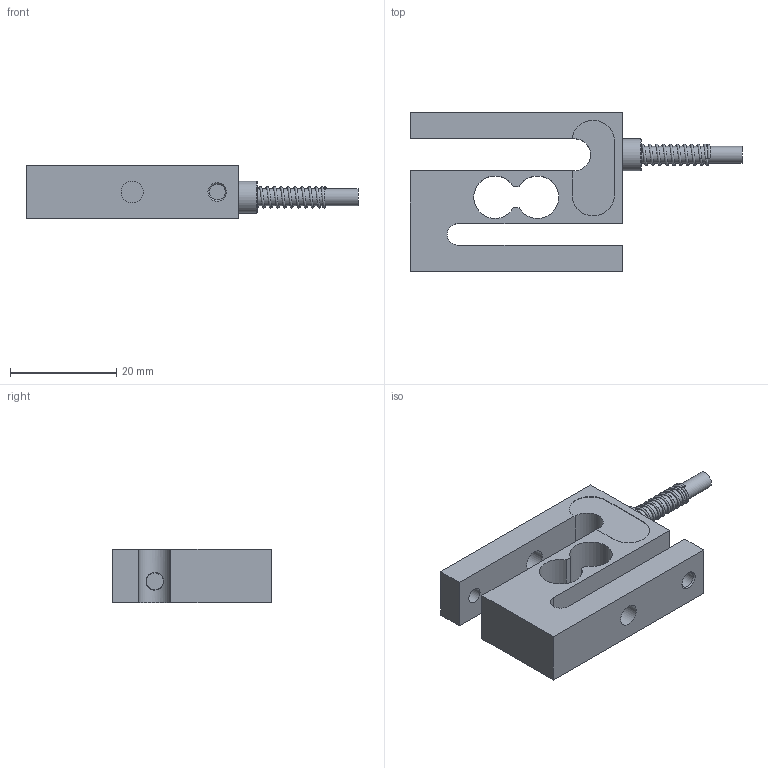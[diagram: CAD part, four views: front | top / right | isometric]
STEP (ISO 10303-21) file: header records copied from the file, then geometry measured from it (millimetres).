
FILE_DESCRIPTION(/* description */ ('Alibre Inc.'),/* implementation_level */ '2;1');
FILE_NAME(/* name */ 'export0',/* time_stamp */ '2015-03-16T11:51:06+01:00',/* author */ (''),/* organization */ (''),/* preprocessor_version */ 'ST-DEVELOPER v14',/* originating_system */ 'Alibre',/* authorisation */ '');
FILE_SCHEMA (('CONFIG_CONTROL_DESIGN'));
Length unit declared in the file: centimetre
Products named in the file (6): ID_1
Bounding box: 62.5 x 30 x 10 mm (x, y, z)
Volume: 7680.6 mm3; surface area: 5574.4 mm2
Topology: 4 solids, 4 shells, 67 faces, 154 edges, 98 vertices
Faces by surface type: plane 27, cylinder 19, bspline 12, cone 7, torus 2
Full cylindrical faces by diameter (mm): 3 x2, 3.15 x1, 3.3 x2, 4.134 x2, 4.2 x1, 5 x2, 6 x1
Entity records: 11827 total; most frequent: CARTESIAN_POINT 9824, DIRECTION 270, ORIENTED_EDGE 268, EDGE_CURVE 134, AXIS2_PLACEMENT_3D 123, EDGE_LOOP 102, FACE_BOUND 102, VERTEX_POINT 96
